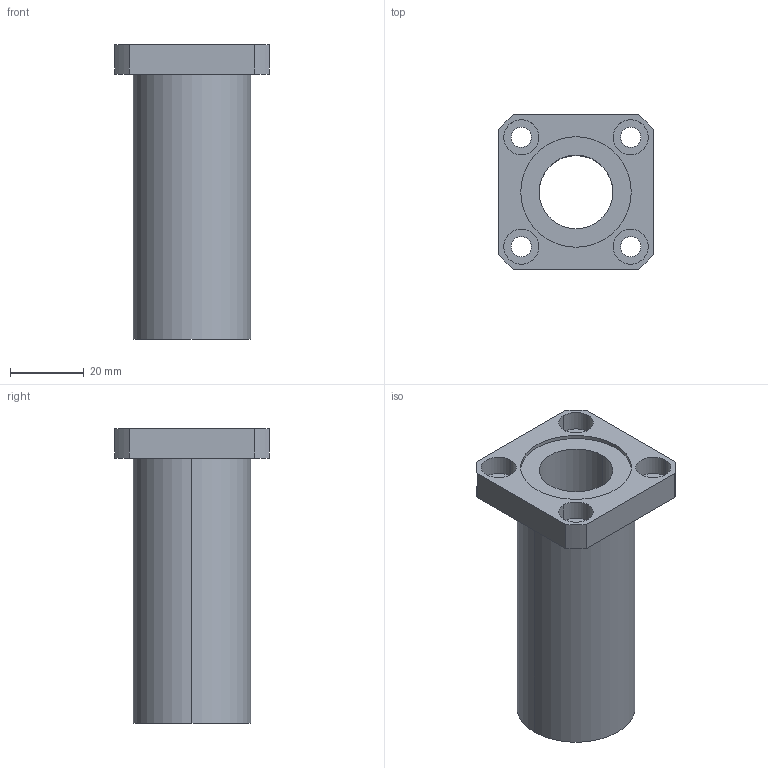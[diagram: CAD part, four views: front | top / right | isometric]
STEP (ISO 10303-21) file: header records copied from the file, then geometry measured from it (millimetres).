
FILE_DESCRIPTION((''),'2;1');
FILE_NAME('C:\Documents and Settings\ｿﾀﾀ蠑ｷ1\ｹﾙﾅﾁ ﾈｭｸ饅\ｺﾎﾇｰﾆﾄﾀﾏ\ﾁｦﾇｰ\LMEK__LUU\LMEK20LUU.stp','2005-06-15T11:01:34',('ｿﾀﾀ蠑ｷ1'),(''),'Autodesk Inventor 9','Autodesk Inventor 9','');
FILE_SCHEMA(('AUTOMOTIVE_DESIGN { 1 0 10303 214 1 1 1 1 }'));
Length unit declared in the file: millimetre
Products named in the file (1): LMEK__(L)
Bounding box: 42 x 42 x 80 mm (x, y, z)
Volume: 44080.3 mm3; surface area: 17069.9 mm2
Topology: 1 solids, 1 shells, 41 faces, 96 edges, 64 vertices
Faces by surface type: bspline 20, cylinder 12, plane 9
Entity records: 1457 total; most frequent: CARTESIAN_POINT 486, DIRECTION 196, ORIENTED_EDGE 192, EDGE_CURVE 96, AXIS2_PLACEMENT_3D 78, VERTEX_POINT 64, EDGE_LOOP 58, CIRCLE 56
